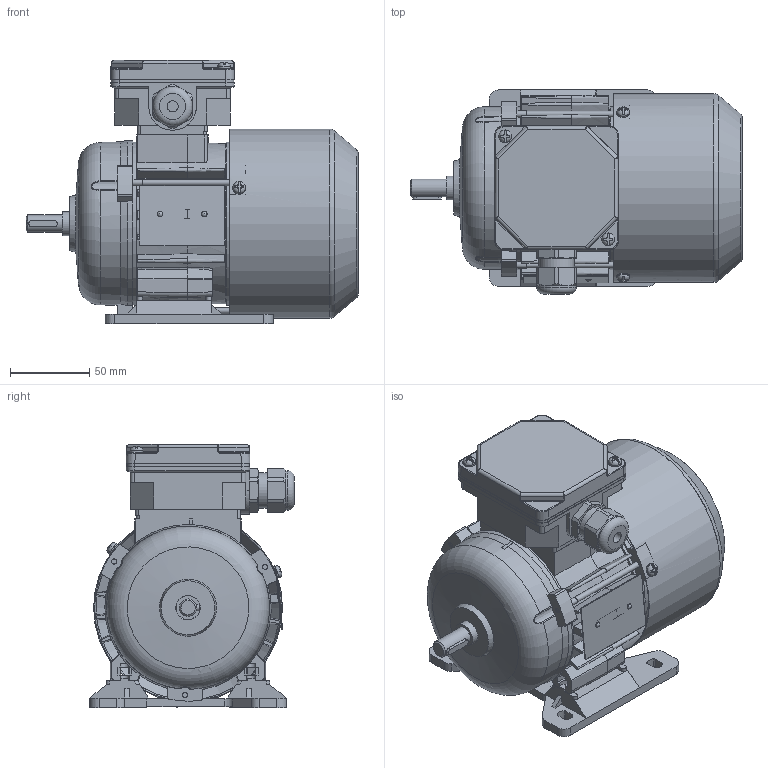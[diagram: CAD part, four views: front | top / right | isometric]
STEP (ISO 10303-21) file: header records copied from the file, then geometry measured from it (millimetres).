
FILE_DESCRIPTION(/* description */ ('Unknown'),/* implementation_level */ '2;1');
FILE_NAME(/* name */ '2SIE63-4B',/* time_stamp */ '2021-04-12T11:37:10+02:00',/* author */ ('Unknown'),/* organization */ ('Unknown'),/* preprocessor_version */ 'ST-DEVELOPER v16.7',/* originating_system */ 'Solid Edge',/* authorisation */ 'Unknown');
FILE_SCHEMA (('AUTOMOTIVE_DESIGN {1 0 10303 214 3 1 1}'));
Length unit declared in the file: millimetre
Products named in the file (1): 2SIE63-4B
Bounding box: 209.49 x 129 x 166 mm (x, y, z)
Volume: 510324.6 mm3; surface area: 321645.3 mm2
Topology: 2 solids, 2 shells, 1963 faces, 5595 edges, 3643 vertices
Faces by surface type: plane 997, cylinder 549, torus 145, cone 144, bspline 107, sphere 21
Full cylindrical faces by diameter (mm): 2.4 x2, 3.242 x3, 3.7 x7, 4 x5, 4.5 x3, 4.8 x2, 5 x2, 5.8 x4, 7 x4, 8 x6, 10.999 x1, 12.899 x1, 13.099 x1, 14.998 x2, 15.4 x2, 18.998 x2, 19.498 x1, 19.998 x1, 20.098 x1, 21.518 x4, 22.3 x1, 25 x1, 28 x2, 28.48 x4, 31 x2, 32 x1, 35 x3, 71.993 x1, 99 x2, 118 x1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
Entity records: 80464 total; most frequent: CARTESIAN_POINT 17629, ORIENTED_EDGE 10600, DIRECTION 9715, EDGE_CURVE 5300, AXIS2_PLACEMENT_3D 3578, VERTEX_POINT 3531, LINE 2559, VECTOR 2559
